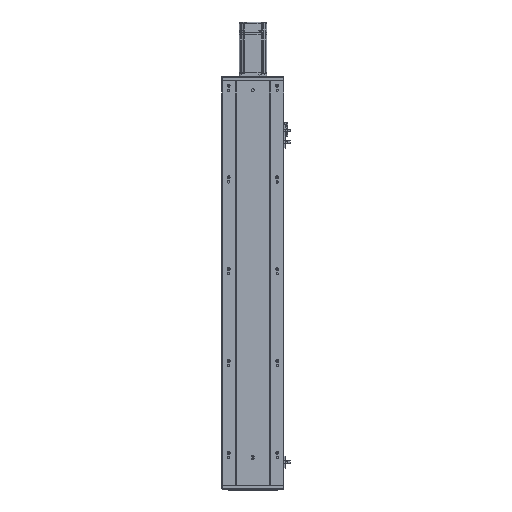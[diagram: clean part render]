
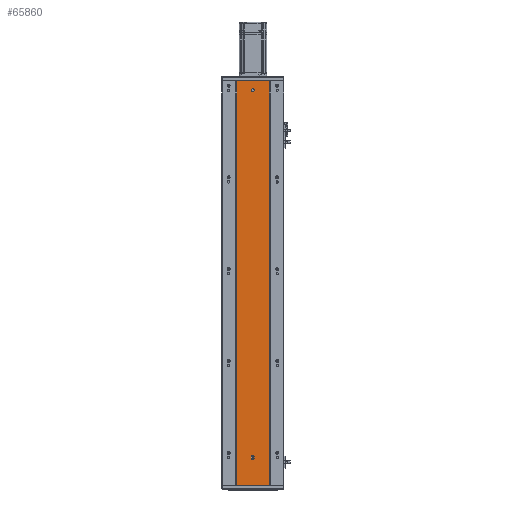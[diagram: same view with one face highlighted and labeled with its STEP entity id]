
A CAD part, front view. The second image highlights one B-rep face of the part: STEP entity #65860.
In plain terms, the highlighted planar face has unit normal (0, -1, 0).
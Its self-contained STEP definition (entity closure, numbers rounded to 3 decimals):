
#201 = VERTEX_POINT ( 'NONE', #41715 ) ;
#368 = VECTOR ( 'NONE', #65094, 1000. ) ;
#3241 = AXIS2_PLACEMENT_3D ( 'NONE', #66786, #45757, #40719 ) ;
#4409 = EDGE_LOOP ( 'NONE', ( #33208, #11592 ) ) ;
#5779 = ORIENTED_EDGE ( 'NONE', *, *, #25780, .F. ) ;
#6034 = EDGE_CURVE ( 'NONE', #66595, #10635, #54438, .T. ) ;
#6436 = VERTEX_POINT ( 'NONE', #47782 ) ;
#7289 = DIRECTION ( 'NONE',  ( 0., -1., 0. ) ) ;
#7392 = CARTESIAN_POINT ( 'NONE',  ( 137.505, 78.746, 62.5 ) ) ;
#7525 = VERTEX_POINT ( 'NONE', #33750 ) ;
#9528 = LINE ( 'NONE', #67766, #13639 ) ;
#9996 = CIRCLE ( 'NONE', #44136, 3. ) ;
#10592 = FACE_OUTER_BOUND ( 'NONE', #65904, .T. ) ;
#10635 = VERTEX_POINT ( 'NONE', #42796 ) ;
#11396 = VERTEX_POINT ( 'NONE', #58854 ) ;
#11592 = ORIENTED_EDGE ( 'NONE', *, *, #50744, .F. ) ;
#12174 = CARTESIAN_POINT ( 'NONE',  ( 0., 78.746, 0. ) ) ;
#12410 = ORIENTED_EDGE ( 'NONE', *, *, #18487, .T. ) ;
#12700 = EDGE_CURVE ( 'NONE', #67926, #7525, #66815, .T. ) ;
#13639 = VECTOR ( 'NONE', #35977, 1000. ) ;
#13918 = CARTESIAN_POINT ( 'NONE',  ( 99.005, 78.746, 881. ) ) ;
#14370 = LINE ( 'NONE', #43176, #368 ) ;
#14896 = VERTEX_POINT ( 'NONE', #39376 ) ;
#14950 = AXIS2_PLACEMENT_3D ( 'NONE', #48988, #17323, #16885 ) ;
#16470 = LINE ( 'NONE', #13918, #23818 ) ;
#16639 = ORIENTED_EDGE ( 'NONE', *, *, #12700, .F. ) ;
#16732 = DIRECTION ( 'NONE',  ( 0., -1., 0. ) ) ;
#16885 = DIRECTION ( 'NONE',  ( 1., 0., 0. ) ) ;
#17323 = DIRECTION ( 'NONE',  ( 0., -1., 0. ) ) ;
#18487 = EDGE_CURVE ( 'NONE', #11396, #7525, #16470, .T. ) ;
#18833 = FACE_BOUND ( 'NONE', #4409, .T. ) ;
#19035 = CARTESIAN_POINT ( 'NONE',  ( 134.505, 78.746, 59.5 ) ) ;
#20443 = EDGE_CURVE ( 'NONE', #64762, #11396, #48218, .T. ) ;
#21958 = EDGE_CURVE ( 'NONE', #10635, #201, #14370, .T. ) ;
#22189 = ORIENTED_EDGE ( 'NONE', *, *, #36133, .F. ) ;
#22256 = CARTESIAN_POINT ( 'NONE',  ( 134.505, 78.746, 864. ) ) ;
#23818 = VECTOR ( 'NONE', #34808, 1000. ) ;
#25780 = EDGE_CURVE ( 'NONE', #64762, #67926, #9528, .T. ) ;
#30026 = DIRECTION ( 'NONE',  ( 1., 0., 0. ) ) ;
#30344 = VECTOR ( 'NONE', #47323, 1000. ) ;
#31579 = VERTEX_POINT ( 'NONE', #22256 ) ;
#32310 = DIRECTION ( 'NONE',  ( 1., 0., 0. ) ) ;
#33208 = ORIENTED_EDGE ( 'NONE', *, *, #57497, .F. ) ;
#33507 = CARTESIAN_POINT ( 'NONE',  ( 134.505, 78.746, 861. ) ) ;
#33750 = CARTESIAN_POINT ( 'NONE',  ( 99.005, 78.746, 0. ) ) ;
#34808 = DIRECTION ( 'NONE',  ( 0., 0., -1. ) ) ;
#35977 = DIRECTION ( 'NONE',  ( 0., 0., -1. ) ) ;
#36133 = EDGE_CURVE ( 'NONE', #201, #6436, #9996, .T. ) ;
#39376 = CARTESIAN_POINT ( 'NONE',  ( 134.505, 78.746, 858. ) ) ;
#39449 = ORIENTED_EDGE ( 'NONE', *, *, #21958, .F. ) ;
#39555 = VECTOR ( 'NONE', #64600, 1000. ) ;
#40719 = DIRECTION ( 'NONE',  ( 1., 0., 0. ) ) ;
#41715 = CARTESIAN_POINT ( 'NONE',  ( 131.505, 78.746, 59.5 ) ) ;
#42796 = CARTESIAN_POINT ( 'NONE',  ( 131.505, 78.746, 62.5 ) ) ;
#43176 = CARTESIAN_POINT ( 'NONE',  ( 131.505, 78.746, 62.5 ) ) ;
#44053 = DIRECTION ( 'NONE',  ( 1., 0., 0. ) ) ;
#44136 = AXIS2_PLACEMENT_3D ( 'NONE', #19035, #61558, #30026 ) ;
#45757 = DIRECTION ( 'NONE',  ( 0., -1., 0. ) ) ;
#45923 = AXIS2_PLACEMENT_3D ( 'NONE', #48168, #16732, #32310 ) ;
#46417 = CIRCLE ( 'NONE', #3241, 3. ) ;
#47323 = DIRECTION ( 'NONE',  ( 0., 0., 1. ) ) ;
#47782 = CARTESIAN_POINT ( 'NONE',  ( 137.505, 78.746, 59.5 ) ) ;
#48168 = CARTESIAN_POINT ( 'NONE',  ( 0., 78.746, 881. ) ) ;
#48218 = LINE ( 'NONE', #54916, #53171 ) ;
#48988 = CARTESIAN_POINT ( 'NONE',  ( 134.505, 78.746, 62.5 ) ) ;
#49180 = FACE_BOUND ( 'NONE', #51253, .T. ) ;
#50744 = EDGE_CURVE ( 'NONE', #31579, #14896, #61814, .T. ) ;
#51218 = DIRECTION ( 'NONE',  ( -1., 0., 0. ) ) ;
#51228 = ORIENTED_EDGE ( 'NONE', *, *, #54883, .F. ) ;
#51253 = EDGE_LOOP ( 'NONE', ( #51693, #51228, #22189, #39449 ) ) ;
#51693 = ORIENTED_EDGE ( 'NONE', *, *, #6034, .F. ) ;
#53171 = VECTOR ( 'NONE', #51218, 1000. ) ;
#54438 = CIRCLE ( 'NONE', #14950, 3. ) ;
#54883 = EDGE_CURVE ( 'NONE', #6436, #66595, #61646, .T. ) ;
#54916 = CARTESIAN_POINT ( 'NONE',  ( 0., 78.746, 881. ) ) ;
#56659 = CARTESIAN_POINT ( 'NONE',  ( 170.005, 78.746, 0. ) ) ;
#57058 = CARTESIAN_POINT ( 'NONE',  ( 137.505, 78.746, 62.5 ) ) ;
#57184 = AXIS2_PLACEMENT_3D ( 'NONE', #33507, #7289, #44053 ) ;
#57307 = CARTESIAN_POINT ( 'NONE',  ( 170.005, 78.746, 881. ) ) ;
#57497 = EDGE_CURVE ( 'NONE', #14896, #31579, #46417, .T. ) ;
#58854 = CARTESIAN_POINT ( 'NONE',  ( 99.005, 78.746, 881. ) ) ;
#61558 = DIRECTION ( 'NONE',  ( 0., -1., 0. ) ) ;
#61646 = LINE ( 'NONE', #57058, #30344 ) ;
#61814 = CIRCLE ( 'NONE', #57184, 3. ) ;
#64561 = PLANE ( 'NONE',  #45923 ) ;
#64600 = DIRECTION ( 'NONE',  ( -1., 0., 0. ) ) ;
#64762 = VERTEX_POINT ( 'NONE', #57307 ) ;
#64994 = ORIENTED_EDGE ( 'NONE', *, *, #20443, .T. ) ;
#65094 = DIRECTION ( 'NONE',  ( 0., 0., -1. ) ) ;
#65860 = ADVANCED_FACE ( 'NONE', ( #49180, #18833, #10592 ), #64561, .T. ) ;
#65904 = EDGE_LOOP ( 'NONE', ( #16639, #5779, #64994, #12410 ) ) ;
#66595 = VERTEX_POINT ( 'NONE', #7392 ) ;
#66786 = CARTESIAN_POINT ( 'NONE',  ( 134.505, 78.746, 861. ) ) ;
#66815 = LINE ( 'NONE', #12174, #39555 ) ;
#67766 = CARTESIAN_POINT ( 'NONE',  ( 170.005, 78.746, 881. ) ) ;
#67926 = VERTEX_POINT ( 'NONE', #56659 ) ;
